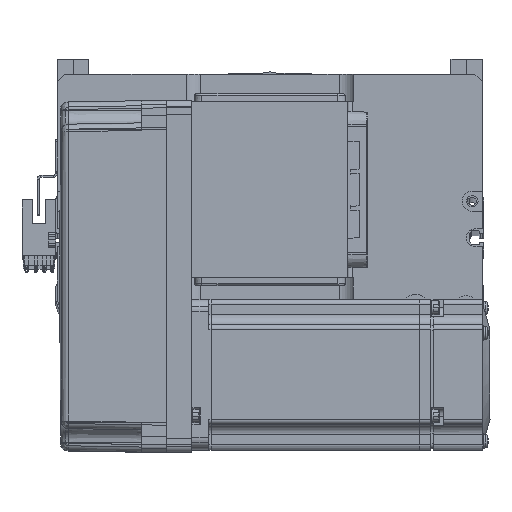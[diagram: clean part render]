
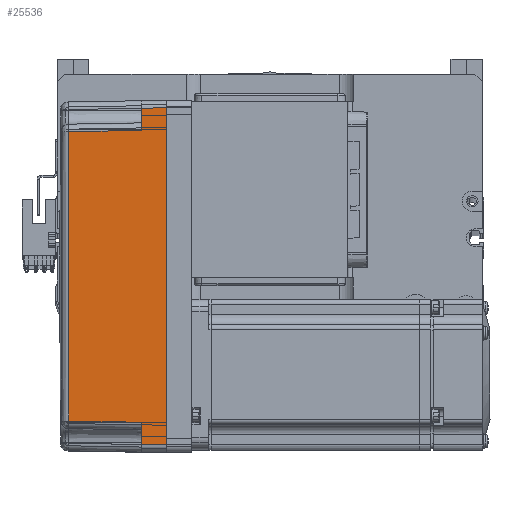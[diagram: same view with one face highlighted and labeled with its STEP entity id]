
A CAD part, top view. The second image highlights one B-rep face of the part: STEP entity #25536.
In plain terms, the highlighted planar face has unit normal (-0.018, 0, 1) as drawn and (0, -1, 0.017) by its records, which use the part's own axes.
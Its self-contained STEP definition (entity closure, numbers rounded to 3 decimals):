
#545 = VERTEX_POINT ( 'NONE', #62818 ) ;
#925 = EDGE_CURVE ( 'NONE', #37285, #49862, #7102, .T. ) ;
#1432 = CARTESIAN_POINT ( 'NONE',  ( 70., -35.825, 10. ) ) ;
#2160 = ORIENTED_EDGE ( 'NONE', *, *, #35830, .T. ) ;
#2592 = CARTESIAN_POINT ( 'NONE',  ( -57.495, -35.32, 38.985 ) ) ;
#3712 = DIRECTION ( 'NONE',  ( 0., -1., 0.017 ) ) ;
#4184 = CARTESIAN_POINT ( 'NONE',  ( 58., -35.825, 10. ) ) ;
#4341 = VERTEX_POINT ( 'NONE', #10111 ) ;
#7102 = LINE ( 'NONE', #47033, #24738 ) ;
#7993 = LINE ( 'NONE', #28908, #17128 ) ;
#10111 = CARTESIAN_POINT ( 'NONE',  ( -66.826, -35.825, 10. ) ) ;
#10649 = VERTEX_POINT ( 'NONE', #2592 ) ;
#12431 = CARTESIAN_POINT ( 'NONE',  ( 19.165, -35.316, 39.181 ) ) ;
#12853 = LINE ( 'NONE', #1432, #48415 ) ;
#12894 = VERTEX_POINT ( 'NONE', #63688 ) ;
#13451 = EDGE_LOOP ( 'NONE', ( #31601, #2160, #26411, #26135, #60769, #56456, #23578, #41464 ) ) ;
#14394 = DIRECTION ( 'NONE',  ( -1., 0., 0. ) ) ;
#14611 = CARTESIAN_POINT ( 'NONE',  ( 67., -36., 0. ) ) ;
#17128 = VECTOR ( 'NONE', #58338, 1000. ) ;
#17429 = DIRECTION ( 'NONE',  ( -1., 0., 0. ) ) ;
#18131 = DIRECTION ( 'NONE',  ( 0.017, 0.017, 1. ) ) ;
#18277 = DIRECTION ( 'NONE',  ( 0., -0.017, -1. ) ) ;
#20033 = VECTOR ( 'NONE', #29443, 1000. ) ;
#20762 = CARTESIAN_POINT ( 'NONE',  ( -67., -36., 0. ) ) ;
#20817 = VERTEX_POINT ( 'NONE', #46686 ) ;
#21266 = B_SPLINE_CURVE_WITH_KNOTS ( 'NONE', 3,
 ( #41960, #12431, #46972, #27021 ),
 .UNSPECIFIED., .F., .F.,
 ( 4, 4 ),
 ( 0., 1. ),
 .UNSPECIFIED. ) ;
#21500 = EDGE_CURVE ( 'NONE', #54908, #4341, #29168, .T. ) ;
#23578 = ORIENTED_EDGE ( 'NONE', *, *, #34435, .F. ) ;
#24738 = VECTOR ( 'NONE', #17429, 1000. ) ;
#25363 = EDGE_CURVE ( 'NONE', #12894, #10649, #21266, .T. ) ;
#25536 = ADVANCED_FACE ( 'NONE', ( #60802 ), #28137, .T. ) ;
#26135 = ORIENTED_EDGE ( 'NONE', *, *, #25363, .T. ) ;
#26411 = ORIENTED_EDGE ( 'NONE', *, *, #27045, .T. ) ;
#27021 = CARTESIAN_POINT ( 'NONE',  ( -57.495, -35.32, 38.985 ) ) ;
#27045 = EDGE_CURVE ( 'NONE', #20817, #12894, #43599, .T. ) ;
#28137 = PLANE ( 'NONE',  #53873 ) ;
#28908 = CARTESIAN_POINT ( 'NONE',  ( -57.495, -35.32, 38.985 ) ) ;
#29093 = LINE ( 'NONE', #32121, #39916 ) ;
#29168 = LINE ( 'NONE', #63171, #38491 ) ;
#29443 = DIRECTION ( 'NONE',  ( -0.017, 0.017, 1. ) ) ;
#31601 = ORIENTED_EDGE ( 'NONE', *, *, #42773, .T. ) ;
#32121 = CARTESIAN_POINT ( 'NONE',  ( -66.959, -35.958, 2.39 ) ) ;
#34435 = EDGE_CURVE ( 'NONE', #49862, #4341, #29093, .T. ) ;
#35294 = CARTESIAN_POINT ( 'NONE',  ( -58., -35.825, 10. ) ) ;
#35830 = EDGE_CURVE ( 'NONE', #545, #20817, #12853, .T. ) ;
#37285 = VERTEX_POINT ( 'NONE', #49143 ) ;
#38491 = VECTOR ( 'NONE', #14394, 1000. ) ;
#38574 = DIRECTION ( 'NONE',  ( -0.017, 0.017, 1. ) ) ;
#39916 = VECTOR ( 'NONE', #18131, 1000. ) ;
#41464 = ORIENTED_EDGE ( 'NONE', *, *, #925, .F. ) ;
#41960 = CARTESIAN_POINT ( 'NONE',  ( 57.495, -35.32, 38.985 ) ) ;
#42773 = EDGE_CURVE ( 'NONE', #37285, #545, #60973, .T. ) ;
#43599 = LINE ( 'NONE', #4184, #49852 ) ;
#46686 = CARTESIAN_POINT ( 'NONE',  ( 58., -35.825, 10. ) ) ;
#46972 = CARTESIAN_POINT ( 'NONE',  ( -19.165, -35.316, 39.181 ) ) ;
#47033 = CARTESIAN_POINT ( 'NONE',  ( 0., -36., 0. ) ) ;
#47668 = CARTESIAN_POINT ( 'NONE',  ( 70., -36., 0. ) ) ;
#48415 = VECTOR ( 'NONE', #55748, 1000. ) ;
#49143 = CARTESIAN_POINT ( 'NONE',  ( 67., -36., 0. ) ) ;
#49852 = VECTOR ( 'NONE', #38574, 1000. ) ;
#49862 = VERTEX_POINT ( 'NONE', #20762 ) ;
#51953 = EDGE_CURVE ( 'NONE', #10649, #54908, #7993, .T. ) ;
#53873 = AXIS2_PLACEMENT_3D ( 'NONE', #47668, #3712, #18277 ) ;
#54908 = VERTEX_POINT ( 'NONE', #35294 ) ;
#55748 = DIRECTION ( 'NONE',  ( -1., 0., 0. ) ) ;
#56456 = ORIENTED_EDGE ( 'NONE', *, *, #21500, .T. ) ;
#58338 = DIRECTION ( 'NONE',  ( -0.017, -0.017, -1. ) ) ;
#60769 = ORIENTED_EDGE ( 'NONE', *, *, #51953, .T. ) ;
#60802 = FACE_OUTER_BOUND ( 'NONE', #13451, .T. ) ;
#60973 = LINE ( 'NONE', #14611, #20033 ) ;
#62818 = CARTESIAN_POINT ( 'NONE',  ( 66.826, -35.825, 10. ) ) ;
#63171 = CARTESIAN_POINT ( 'NONE',  ( 70., -35.825, 10. ) ) ;
#63688 = CARTESIAN_POINT ( 'NONE',  ( 57.495, -35.32, 38.985 ) ) ;
